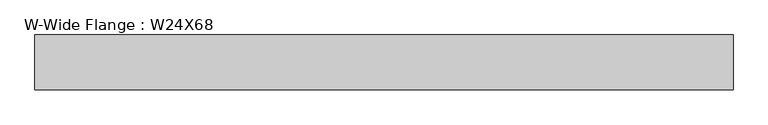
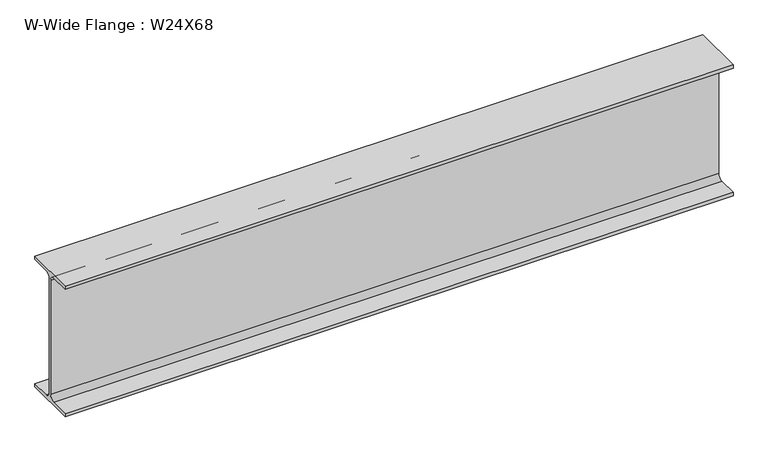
"""IFC4 building model written with IfcOpenShell, lengths in millimetres: beam geometry, W-Wide Flange : W24X68."""

from ifc_helpers import new_model, si_unit, point, frame, frame_2d, origin, place, context, project, spatial, polyline, circle_curve, trimmed, segment, composite_curve, outline, extrude, source, transform, mapped, element, save


def w_wide_flange_w24x68_f2fd009a(model_context):
    return source(origin(), model_context, "Body", "SweptSolid", [
        extrude(outline(composite_curve([segment(polyline([(113.919, -286.131), (113.919, -300.99), (-113.919, -300.99), (-113.919, -286.131), (-28.5115, -286.131)]), True, "CONTINUOUS"), segment(trimmed(circle_curve(frame_2d((-28.5115, -262.89)), 23.241), [point((-28.5115, -286.131))], [point((-5.2705, -262.89))], True, "CARTESIAN"), True, "CONTINUOUS"), segment(polyline([(-5.2705, -262.89), (-5.2705, 262.89)]), True, "CONTINUOUS"), segment(trimmed(circle_curve(frame_2d((-28.5115, 262.89)), 23.241), [point((-5.2705, 262.89))], [point((-28.5115, 286.131))], True, "CARTESIAN"), True, "CONTINUOUS"), segment(polyline([(-28.5115, 286.131), (-113.919, 286.131), (-113.919, 300.99), (113.919, 300.99), (113.919, 286.131), (28.5115, 286.131)]), True, "CONTINUOUS"), segment(trimmed(circle_curve(frame_2d((28.5115, 262.89)), 23.241), [point((28.5115, 286.131))], [point((5.2705, 262.89))], True, "CARTESIAN"), True, "CONTINUOUS"), segment(polyline([(5.2705, 262.89), (5.2705, -262.89)]), True, "CONTINUOUS"), segment(trimmed(circle_curve(frame_2d((28.5115, -262.89)), 23.241), [point((5.2705, -262.89))], [point((28.5115, -286.131))], True, "CARTESIAN"), True, "CONTINUOUS"), segment(polyline([(28.5115, -286.131), (113.919, -286.131)]), True, "CONTINUOUS")], self_intersect=False)), frame((-1454.15, 0.0, 0.0), z_axis=(1.0, 0.0, 0.0), x_axis=(0.0, 1.0, 0.0)), (0.0, 0.0, 1.0), 2908.3),
    ])


if __name__ == "__main__":
    model = new_model("IFC4")
    model_context = context("Model", 3, world=origin())
    ifc_project = project(units=[si_unit("LENGTHUNIT", "METRE", prefix="MILLI")], contexts=[model_context])
    site = spatial("IfcSite", under=ifc_project)
    building = spatial("IfcBuilding", under=site)
    placement = place(None, origin())
    w_wide_flange_w24x68_shape = w_wide_flange_w24x68_f2fd009a(model_context)
    element("IfcBeam", 1, ObjectType="W-Wide Flange : W24X68", at=placement, inside=building, context=model_context, shape_type="MappedRepresentation", body=[
        mapped(w_wide_flange_w24x68_shape, transform((0.0, 0.0, 0.0), x_axis=(1.0, 0.0, 0.0), y_axis=(0.0, 1.0, 0.0), z_axis=(0.0, 0.0, 1.0))),
    ])
    save(model, "model.ifc")
